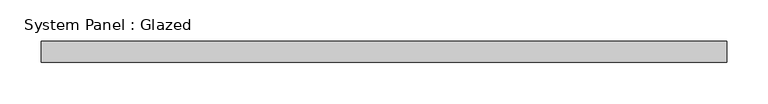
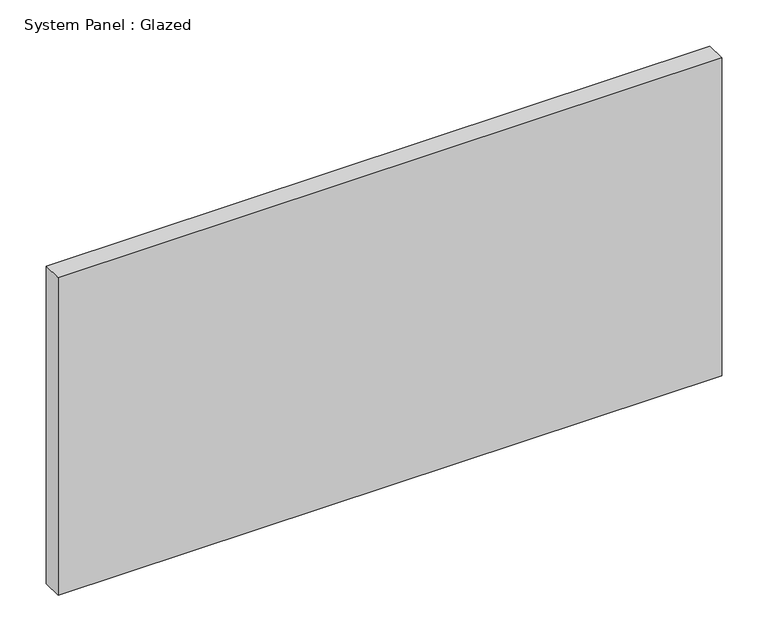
"""IFC4 building model written with IfcOpenShell, lengths in millimetres: plate geometry, System Panel : Glazed."""

from ifc_helpers import new_model, si_unit, origin, origin_with_axes, place, context, project, spatial, polyline, outline, extrude, source, transform, mapped, element, save


def system_panel_glazed_9a7f91f8(model_context):
    return source(origin(), model_context, "Body", "SweptSolid", [
        extrude(outline(polyline([(414.0389939, 19.05), (-414.0389939, 19.05), (-414.0389939, 44.45), (414.0389939, 44.45), (414.0389939, 19.05)])), origin_with_axes(), (0.0, 0.0, 1.0), 419.1),
    ])


if __name__ == "__main__":
    model = new_model("IFC4")
    model_context = context("Model", 3, world=origin())
    ifc_project = project(units=[si_unit("LENGTHUNIT", "METRE", prefix="MILLI")], contexts=[model_context])
    site = spatial("IfcSite", under=ifc_project)
    building = spatial("IfcBuilding", under=site)
    placement = place(None, origin())
    system_panel_glazed_shape = system_panel_glazed_9a7f91f8(model_context)
    element("IfcPlate", 1, ObjectType="System Panel : Glazed", at=placement, inside=building, context=model_context, shape_type="MappedRepresentation", body=[
        mapped(system_panel_glazed_shape, transform((0.0, 0.0, 0.0), x_axis=(1.0, 0.0, 0.0), y_axis=(0.0, 1.0, 0.0), z_axis=(0.0, 0.0, 1.0))),
    ])
    save(model, "model.ifc")
